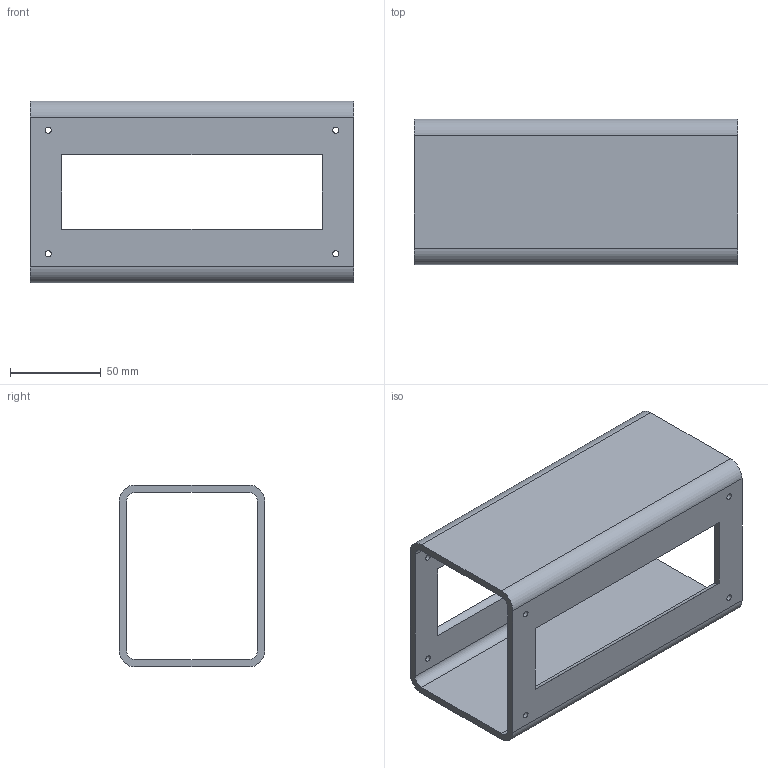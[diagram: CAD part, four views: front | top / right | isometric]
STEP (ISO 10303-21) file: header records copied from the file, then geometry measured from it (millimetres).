
FILE_DESCRIPTION(('Open CASCADE Model'),'2;1');
FILE_NAME('Open CASCADE Shape Model','2026-10-17T16:45:03',('Author'),( 'Open CASCADE'),'Open CASCADE STEP processor 8.0','build123d', 'Unknown');
FILE_SCHEMA(('AUTOMOTIVE_DESIGN { 1 0 10303 214 1 1 1 1 }'));
Length unit declared in the file: millimetre
Products named in the file (1): COMPOUND
Bounding box: 178 x 80 x 100 mm (x, y, z)
Volume: 185978.7 mm3; surface area: 99794.9 mm2
Topology: 1 solids, 1 shells, 34 faces, 96 edges, 64 vertices
Faces by surface type: cylinder 20, plane 14
Full cylindrical faces by diameter (mm): 3.4 x8
Entity records: 2454 total; most frequent: CARTESIAN_POINT 571, DIRECTION 334, ORIENTED_EDGE 192, PCURVE 192, DEFINITIONAL_REPRESENTATION 192, LINE 168, VECTOR 168, EDGE_CURVE 96
